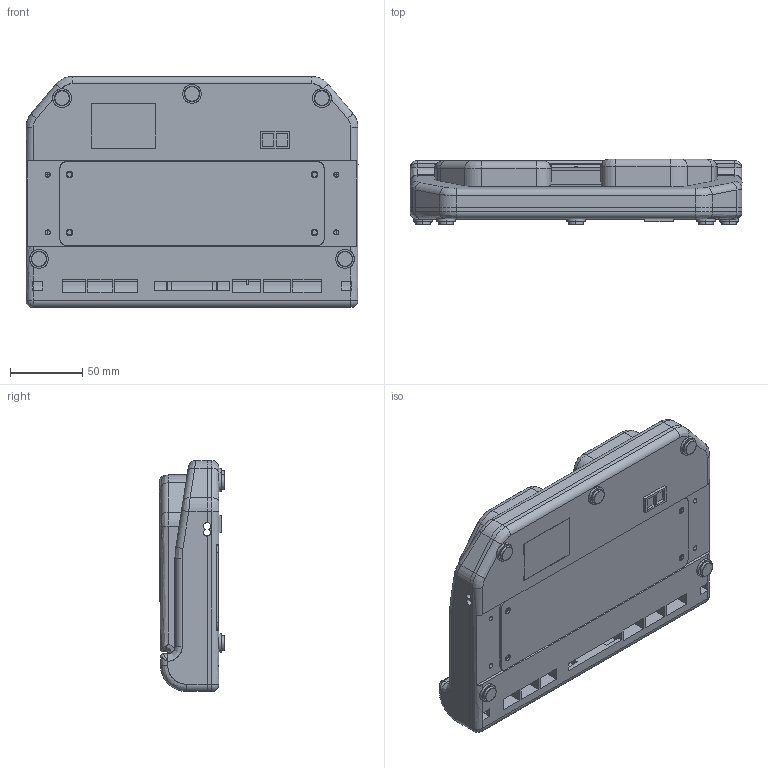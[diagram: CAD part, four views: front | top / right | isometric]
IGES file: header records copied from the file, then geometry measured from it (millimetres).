
Start section: SolidWorks IGES file using analytic representation for surfaces
Bounding box: 230 x 45.37 x 160 mm (x, y, z)
Surface area: 162247.8 mm2 (no closed solid volume)
Topology: 0 solids, 0 shells, 356 faces, 5659 edges, 5651 vertices
Faces by surface type: bspline 197, revolution 159
